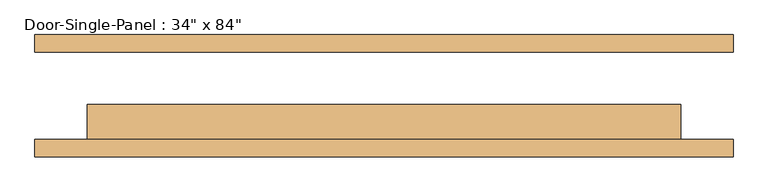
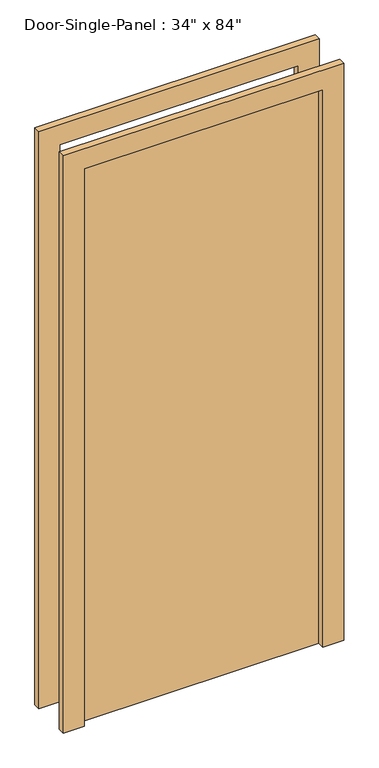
"""IFC4 building model written with IfcOpenShell, lengths in millimetres: door geometry."""

from ifc_helpers import new_model, si_unit, frame, origin, origin_with_axes, place, context, project, spatial, polyline, outline, extrude, source, transform, mapped, element, save


def door_6c7271e6(model_context):
    return source(origin(), model_context, "Body", "SweptSolid", [
        extrude(outline(polyline([(431.8, -12.7), (431.8, -63.5), (-431.8, -63.5), (-431.8, -12.7), (431.8, -12.7)])), origin_with_axes(), (0.0, 0.0, 1.0), 2133.6),
        extrude(outline(polyline([(2209.8, -508.0), (0.0, -508.0), (0.0, -431.8), (2133.6, -431.8), (2133.6, 431.8), (0.0, 431.8), (0.0, 508.0), (2209.8, 508.0), (2209.8, -508.0)])), frame((0.0, -88.9, 0.0), z_axis=(0.0, 1.0, 0.0), x_axis=(0.0, 0.0, 1.0)), (0.0, 0.0, 1.0), 25.4),
        extrude(outline(polyline([(2209.8, 508.0), (2209.8, -508.0), (0.0, -508.0), (0.0, -431.8), (2133.6, -431.8), (2133.6, 431.8), (0.0, 431.8), (0.0, 508.0), (2209.8, 508.0)])), frame((0.0, 63.5, 0.0), z_axis=(0.0, 1.0, 0.0), x_axis=(0.0, 0.0, 1.0)), (0.0, 0.0, 1.0), 25.4),
    ])


if __name__ == "__main__":
    model = new_model("IFC4")
    model_context = context("Model", 3, world=origin())
    ifc_project = project(units=[si_unit("LENGTHUNIT", "METRE", prefix="MILLI")], contexts=[model_context])
    site = spatial("IfcSite", under=ifc_project)
    building = spatial("IfcBuilding", under=site)
    placement = place(None, origin())
    door_shape = door_6c7271e6(model_context)
    element("IfcDoor", 1, ObjectType="Door-Single-Panel : 34\" x 84\"", at=placement, inside=building, context=model_context, shape_type="MappedRepresentation", body=[
        mapped(door_shape, transform((0.0, 0.0, 0.0), x_axis=(1.0, 0.0, 0.0), y_axis=(0.0, 1.0, 0.0), z_axis=(0.0, 0.0, 1.0))),
    ])
    save(model, "model.ifc")
